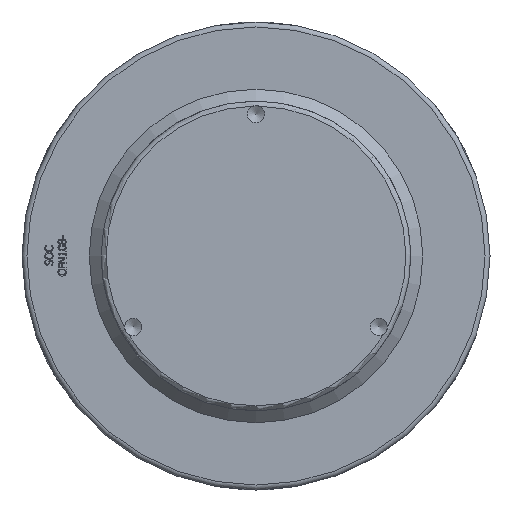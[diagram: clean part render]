
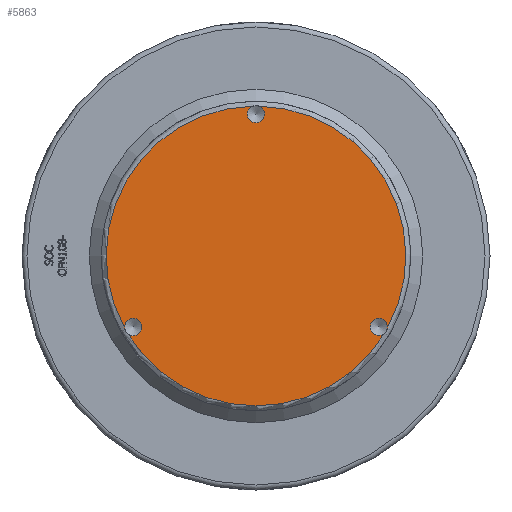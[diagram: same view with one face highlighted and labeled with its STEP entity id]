
A CAD part, front view. The second image highlights one B-rep face of the part: STEP entity #5863.
In plain terms, the highlighted planar face has unit normal (0, -1, 0) as drawn and (0, 1, 0) by its records, which use the part's own axes.
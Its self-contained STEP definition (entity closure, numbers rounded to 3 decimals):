
#1173=PLANE('',#6269);
#1772=FACE_OUTER_BOUND('',#2121,.T.);
#2121=EDGE_LOOP('',(#4066,#4067,#4068,#4069,#4070,#4071));
#2516=CIRCLE('',#6259,8.647);
#2518=CIRCLE('',#6263,8.647);
#2519=CIRCLE('',#6265,150.5);
#2520=CIRCLE('',#6266,150.5);
#2521=CIRCLE('',#6267,150.5);
#2523=CIRCLE('',#6270,8.647);
#2544=VERTEX_POINT('',#7312);
#2545=VERTEX_POINT('',#7313);
#2547=VERTEX_POINT('',#7331);
#2548=VERTEX_POINT('',#7332);
#2549=VERTEX_POINT('',#7347);
#2550=VERTEX_POINT('',#7349);
#3155=EDGE_CURVE('',#2545,#2544,#2516,.T.);
#3158=EDGE_CURVE('',#2548,#2547,#2518,.T.);
#3159=EDGE_CURVE('',#2545,#2549,#2519,.T.);
#3161=EDGE_CURVE('',#2550,#2547,#2520,.T.);
#3162=EDGE_CURVE('',#2548,#2544,#2521,.T.);
#3164=EDGE_CURVE('',#2550,#2549,#2523,.T.);
#4066=ORIENTED_EDGE('',*,*,#3155,.T.);
#4067=ORIENTED_EDGE('',*,*,#3162,.F.);
#4068=ORIENTED_EDGE('',*,*,#3158,.T.);
#4069=ORIENTED_EDGE('',*,*,#3161,.F.);
#4070=ORIENTED_EDGE('',*,*,#3164,.T.);
#4071=ORIENTED_EDGE('',*,*,#3159,.F.);
#5863=ADVANCED_FACE('',(#1772),#1173,.T.);
#6259=AXIS2_PLACEMENT_3D('',#7326,#6455,#6456);
#6263=AXIS2_PLACEMENT_3D('',#7345,#6463,#6464);
#6265=AXIS2_PLACEMENT_3D('',#7348,#6467,#6468);
#6266=AXIS2_PLACEMENT_3D('',#7360,#6469,#6470);
#6267=AXIS2_PLACEMENT_3D('',#7361,#6471,#6472);
#6269=AXIS2_PLACEMENT_3D('',#7364,#6475,#6476);
#6270=AXIS2_PLACEMENT_3D('',#7365,#6477,#6478);
#6455=DIRECTION('center_axis',(0.,-1.,0.));
#6456=DIRECTION('ref_axis',(-0.5,0.,-0.866));
#6463=DIRECTION('center_axis',(0.,-1.,0.));
#6464=DIRECTION('ref_axis',(-0.5,0.,0.866));
#6467=DIRECTION('center_axis',(0.,-1.,0.));
#6468=DIRECTION('ref_axis',(-1.,0.,0.));
#6469=DIRECTION('center_axis',(0.,-1.,0.));
#6470=DIRECTION('ref_axis',(-1.,0.,0.));
#6471=DIRECTION('center_axis',(0.,-1.,0.));
#6472=DIRECTION('ref_axis',(-1.,0.,0.));
#6475=DIRECTION('center_axis',(0.,1.,0.));
#6476=DIRECTION('ref_axis',(0.,0.,1.));
#6477=DIRECTION('center_axis',(0.,-1.,0.));
#6478=DIRECTION('ref_axis',(1.,0.,0.));
#7312=CARTESIAN_POINT('',(128.618,283.5,-78.152));
#7313=CARTESIAN_POINT('',(131.99,283.5,-72.31));
#7326=CARTESIAN_POINT('Origin',(123.409,283.5,-71.25));
#7331=CARTESIAN_POINT('',(-131.99,283.5,-72.31));
#7332=CARTESIAN_POINT('',(-128.618,283.5,-78.152));
#7345=CARTESIAN_POINT('Origin',(-123.409,283.5,-71.25));
#7347=CARTESIAN_POINT('',(3.373,283.5,150.462));
#7348=CARTESIAN_POINT('Origin',(0.,283.5,0.));
#7349=CARTESIAN_POINT('',(-3.373,283.5,150.462));
#7360=CARTESIAN_POINT('Origin',(0.,283.5,0.));
#7361=CARTESIAN_POINT('Origin',(0.,283.5,0.));
#7364=CARTESIAN_POINT('Origin',(155.5,283.5,0.));
#7365=CARTESIAN_POINT('Origin',(0.,283.5,142.5));
